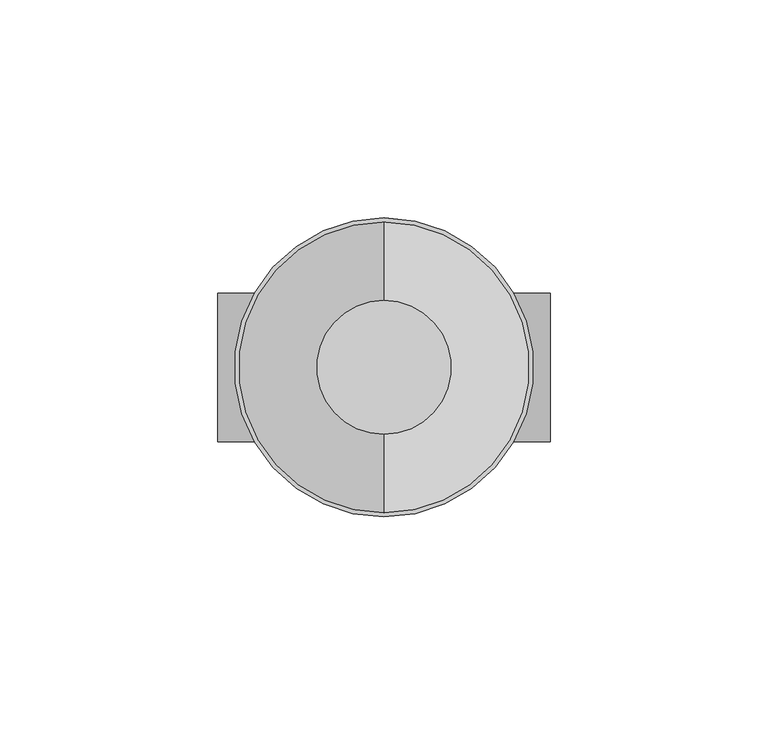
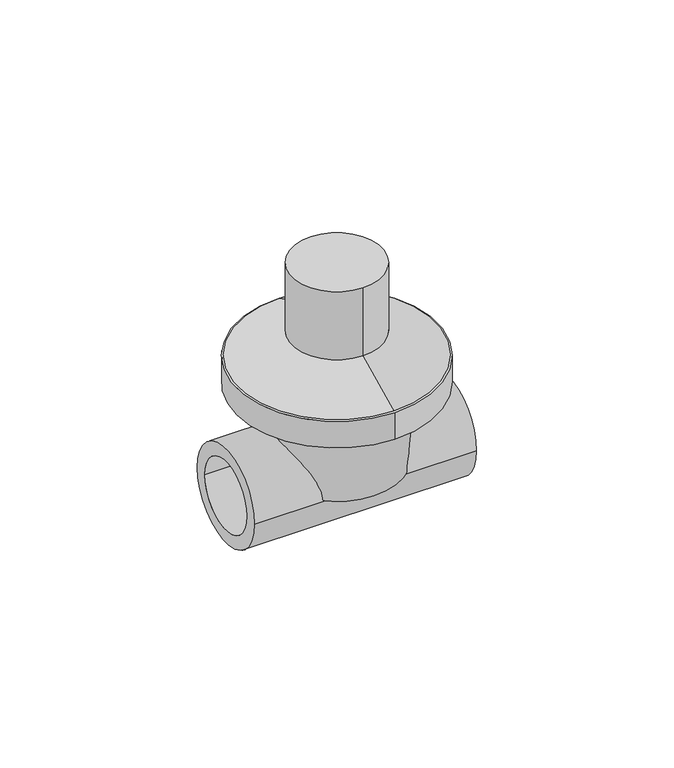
"""IFC4 building model written with IfcOpenShell, lengths in millimetres: valve geometry, Aquatherm - Concealed Valve Short Tamper Proof : SHORT TAMPER PROOF."""

from ifc_helpers import new_model, si_unit, point, frame, origin, origin_2d, place, context, project, spatial, polyline, circle_curve, trimmed, segment, composite_curve, outline, extrude, source, transform, mapped, element, save
from ifc_brep_helpers import plane_surface, cylinder_surface, revolved_surface, advanced_brep


def valve_08acd177(model_context):
    return source(origin(), model_context, "Body", "SolidModel", [
        extrude(outline(composite_curve([segment(trimmed(circle_curve(origin_2d(), 34.29), [point((0.0, 34.29))], [point((0.0, -34.29))], False, "CARTESIAN"), True, "CONTINUOUS"), segment(trimmed(circle_curve(origin_2d(), 34.29), [point((0.0, -34.29))], [point((0.0, 34.29))], False, "CARTESIAN"), True, "CONTINUOUS")], self_intersect=False)), frame((0.0, 0.0, 27.94), z_axis=(0.0, 0.0, 1.0), x_axis=(1.0, 0.0, 0.0)), (0.0, 0.0, 1.0), 9.652),
        extrude(outline(composite_curve([segment(trimmed(circle_curve(origin_2d(), 15.367), [point((0.0, 15.367))], [point((0.0, -15.367))], False, "CARTESIAN"), True, "CONTINUOUS"), segment(trimmed(circle_curve(origin_2d(), 15.367), [point((0.0, -15.367))], [point((0.0, 15.367))], False, "CARTESIAN"), True, "CONTINUOUS")], self_intersect=False)), frame((0.0, 0.0, 46.736), z_axis=(0.0, 0.0, 1.0), x_axis=(1.0, 0.0, 0.0)), (0.0, 0.0, 1.0), 24.638),
        advanced_brep(
        [(0.0, 15.367, 46.736), (0.0, -15.367, 46.736), (0.0, 34.29, 37.592), (0.0, -34.29, 37.592)],
        [
            (0, 1, circle_curve(frame((0.0, 0.0, 46.736), z_axis=(0.0, 0.0, 1.0), x_axis=(0.0, 1.0, 0.0)), 15.367)),
            (1, 0, circle_curve(frame((0.0, 0.0, 46.736), z_axis=(0.0, 0.0, 1.0), x_axis=(0.0, -1.0, 0.0)), 15.367)),
            (2, 3, circle_curve(frame((0.0, 0.0, 37.592), z_axis=(0.0, 0.0, -1.0), x_axis=(0.0, -1.0, 0.0)), 34.29)),
            (3, 2, circle_curve(frame((0.0, 0.0, 37.592), z_axis=(0.0, 0.0, -1.0), x_axis=(0.0, 1.0, 0.0)), 34.29)),
            (3, 1),
            (0, 2),
        ],
        [
            plane_surface(frame((0.0, 0.0, 46.736), z_axis=(0.0, 0.0, 1.0), x_axis=(-1.0, 0.0, 0.0))),
            plane_surface(frame((0.0, 0.0, 37.592), z_axis=(0.0, 0.0, -1.0), x_axis=(-1.0, 0.0, 0.0))),
            revolved_surface(polyline([(0.0, 15.366999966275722, 46.736), (0.0, 34.29, 37.592)]), (0.0, 0.0, 54.1616644), (0.0, 0.0, -1.0)),
            revolved_surface(polyline([(0.0, -15.366999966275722, 46.736), (0.0, -34.29, 37.592)]), (0.0, 0.0, 54.1616644), (0.0, 0.0, -1.0)),
        ],
        [
            (0, [[1, 2]]),
            (1, [[3, 4]]),
            (2, [[-4, 5, -1, 6]]),
            (3, [[-3, -6, -2, -5]]),
        ],
    ),
        advanced_brep(
        [(0.0, 0.0, 27.94), (22.098, 0.0, 27.94), (-22.098, 0.0, 27.94), (-22.098, 0.0, 0.0), (22.098, 0.0, 0.0), (0.0, 0.0, 0.0)],
        [
            (0, 1),
            (1, 2, circle_curve(frame((0.0, 0.0, 27.94), z_axis=(0.0, 0.0, 1.0), x_axis=(1.0, 0.0, 0.0)), 22.098)),
            (2, 0),
            (2, 1, circle_curve(frame((0.0, 0.0, 27.94), z_axis=(0.0, 0.0, 1.0), x_axis=(1.0, 0.0, 0.0)), 22.098)),
            (3, 4, circle_curve(frame((0.0, 0.0, 0.0), z_axis=(0.0, 0.0, -1.0), x_axis=(1.0, 0.0, 0.0)), 22.098)),
            (4, 5),
            (5, 3),
            (4, 3, circle_curve(frame((0.0, 0.0, 0.0), z_axis=(0.0, 0.0, -1.0), x_axis=(1.0, 0.0, 0.0)), 22.098)),
            (1, 4),
            (3, 2),
        ],
        [
            plane_surface(frame((0.0, 0.0, 27.94), z_axis=(0.0, 0.0, 1.0), x_axis=(1.0, 0.0, 0.0))),
            plane_surface(frame((0.0, 0.0, 0.0), z_axis=(0.0, 0.0, -1.0), x_axis=(1.0, 0.0, 0.0))),
            cylinder_surface(frame((0.0, 0.0, 44.7084809), z_axis=(0.0, 0.0, 1.0), x_axis=(1.0, 0.0, 0.0)), 22.098),
        ],
        [
            (0, [[1, 2, 3]]),
            (0, [[-3, 4, -1]]),
            (1, [[5, 6, 7]]),
            (1, [[8, -7, -6]]),
            (2, [[-2, 9, -5, 10]]),
            (2, [[-4, -10, -8, -9]]),
        ],
    ),
        extrude(outline(composite_curve([segment(trimmed(circle_curve(origin_2d(), 17.018), [point((-17.018, 0.0))], [point((17.018, 0.0))], False, "CARTESIAN"), True, "CONTINUOUS"), segment(trimmed(circle_curve(origin_2d(), 17.018), [point((17.018, 0.0))], [point((-17.018, 0.0))], False, "CARTESIAN"), True, "CONTINUOUS")], self_intersect=False), holes=[composite_curve([segment(trimmed(circle_curve(origin_2d(), 12.446), [point((-12.446, 0.0))], [point((12.446, 0.0))], True, "CARTESIAN"), True, "CONTINUOUS"), segment(trimmed(circle_curve(origin_2d(), 12.446), [point((12.446, 0.0))], [point((-12.446, 0.0))], True, "CARTESIAN"), True, "CONTINUOUS")], self_intersect=False)]), frame((-38.1, 0.0, 0.0), z_axis=(1.0, 0.0, 0.0), x_axis=(0.0, 1.0, 0.0)), (0.0, 0.0, 1.0), 76.2),
    ])


if __name__ == "__main__":
    model = new_model("IFC4")
    model_context = context("Model", 3, world=origin())
    ifc_project = project(units=[si_unit("LENGTHUNIT", "METRE", prefix="MILLI")], contexts=[model_context])
    site = spatial("IfcSite", under=ifc_project)
    building = spatial("IfcBuilding", under=site)
    placement = place(None, origin())
    valve_shape = valve_08acd177(model_context)
    element("IfcValve", 1, ObjectType="Aquatherm - Concealed Valve Short Tamper Proof : SHORT TAMPER PROOF", at=placement, inside=building, context=model_context, shape_type="MappedRepresentation", body=[
        mapped(valve_shape, transform((0.0, 0.0, 0.0), x_axis=(1.0, 0.0, 0.0), y_axis=(0.0, 1.0, 0.0), z_axis=(0.0, 0.0, 1.0))),
    ])
    save(model, "model.ifc")
